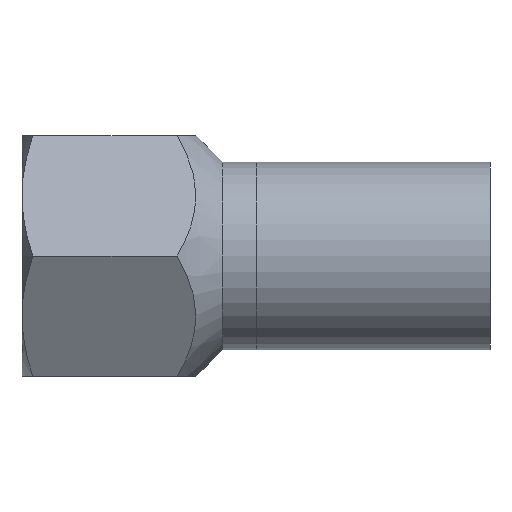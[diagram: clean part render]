
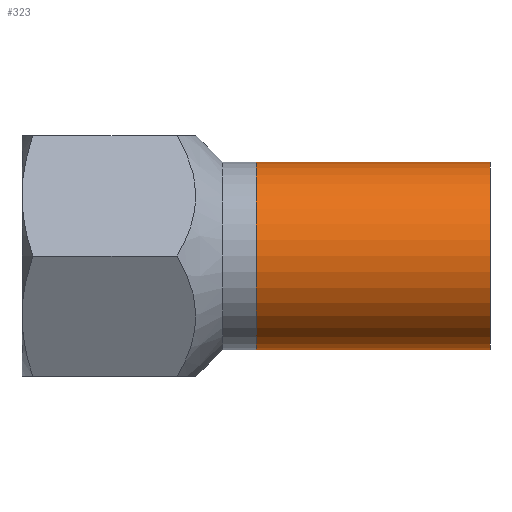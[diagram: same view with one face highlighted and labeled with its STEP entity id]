
A CAD part, front view. The second image highlights one B-rep face of the part: STEP entity #323.
In plain terms, the highlighted cylindrical face has radius 14 mm (diameter 28 mm), a partial arc.
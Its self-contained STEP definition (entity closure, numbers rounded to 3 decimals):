
#4 = CARTESIAN_POINT ( 'NONE',  ( 0., 0., -14. ) ) ;
#74 = DIRECTION ( 'NONE',  ( 1., 0., 0. ) ) ;
#111 = DIRECTION ( 'NONE',  ( 0., 0., -1. ) ) ;
#176 = VERTEX_POINT ( 'NONE', #886 ) ;
#222 = CARTESIAN_POINT ( 'NONE',  ( 35., 0., -14. ) ) ;
#249 = DIRECTION ( 'NONE',  ( 1., 0., 0. ) ) ;
#270 = ORIENTED_EDGE ( 'NONE', *, *, #909, .F. ) ;
#323 = ADVANCED_FACE ( 'NONE', ( #595 ), #1032, .T. ) ;
#359 = ORIENTED_EDGE ( 'NONE', *, *, #879, .F. ) ;
#378 = CARTESIAN_POINT ( 'NONE',  ( 0., 0., 14. ) ) ;
#392 = CARTESIAN_POINT ( 'NONE',  ( 0., 0., 0. ) ) ;
#403 = AXIS2_PLACEMENT_3D ( 'NONE', #1245, #946, #111 ) ;
#420 = ORIENTED_EDGE ( 'NONE', *, *, #719, .T. ) ;
#431 = LINE ( 'NONE', #1283, #1047 ) ;
#460 = LINE ( 'NONE', #4, #514 ) ;
#514 = VECTOR ( 'NONE', #74, 1000. ) ;
#518 = EDGE_LOOP ( 'NONE', ( #359, #420, #951, #270 ) ) ;
#595 = FACE_OUTER_BOUND ( 'NONE', #518, .T. ) ;
#610 = VERTEX_POINT ( 'NONE', #222 ) ;
#691 = DIRECTION ( 'NONE',  ( 0., 0., -1. ) ) ;
#719 = EDGE_CURVE ( 'NONE', #1229, #176, #904, .T. ) ;
#776 = DIRECTION ( 'NONE',  ( 1., 0., 0. ) ) ;
#800 = DIRECTION ( 'NONE',  ( 1., 0., 0. ) ) ;
#879 = EDGE_CURVE ( 'NONE', #1229, #901, #431, .T. ) ;
#886 = CARTESIAN_POINT ( 'NONE',  ( 0., 0., -14. ) ) ;
#900 = DIRECTION ( 'NONE',  ( 0., 0., -1. ) ) ;
#901 = VERTEX_POINT ( 'NONE', #1191 ) ;
#904 = CIRCLE ( 'NONE', #1119, 14. ) ;
#909 = EDGE_CURVE ( 'NONE', #901, #610, #1049, .T. ) ;
#946 = DIRECTION ( 'NONE',  ( 1., 0., 0. ) ) ;
#951 = ORIENTED_EDGE ( 'NONE', *, *, #1152, .T. ) ;
#1032 = CYLINDRICAL_SURFACE ( 'NONE', #1307, 14. ) ;
#1047 = VECTOR ( 'NONE', #776, 1000. ) ;
#1049 = CIRCLE ( 'NONE', #403, 14. ) ;
#1119 = AXIS2_PLACEMENT_3D ( 'NONE', #1288, #249, #691 ) ;
#1152 = EDGE_CURVE ( 'NONE', #176, #610, #460, .T. ) ;
#1191 = CARTESIAN_POINT ( 'NONE',  ( 35., 0., 14. ) ) ;
#1229 = VERTEX_POINT ( 'NONE', #378 ) ;
#1245 = CARTESIAN_POINT ( 'NONE',  ( 35., 0., 0. ) ) ;
#1283 = CARTESIAN_POINT ( 'NONE',  ( 0., 0., 14. ) ) ;
#1288 = CARTESIAN_POINT ( 'NONE',  ( 0., 0., 0. ) ) ;
#1307 = AXIS2_PLACEMENT_3D ( 'NONE', #392, #800, #900 ) ;
